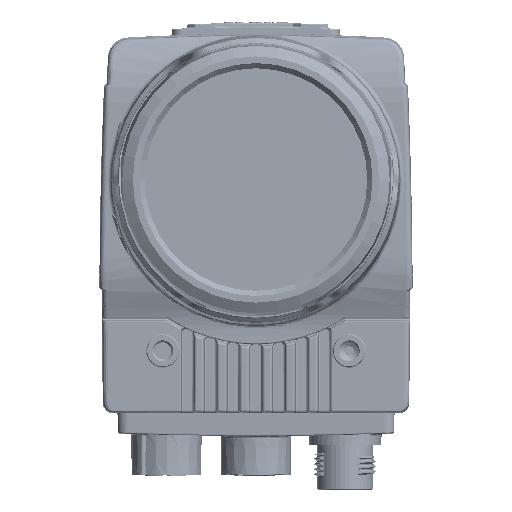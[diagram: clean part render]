
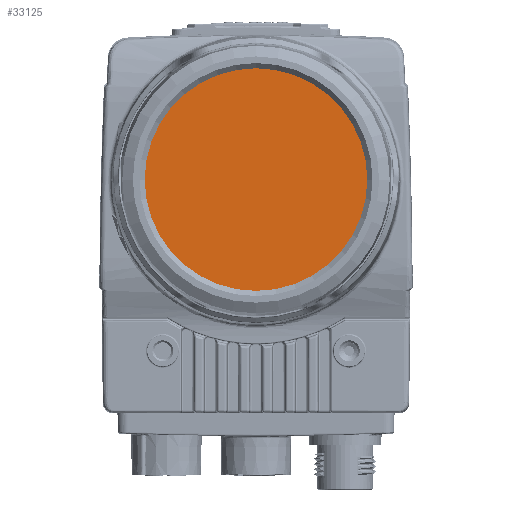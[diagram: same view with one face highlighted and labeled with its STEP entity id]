
A CAD part, top view. The second image highlights one B-rep face of the part: STEP entity #33125.
In plain terms, the highlighted planar face has unit normal (0, 0, 1).
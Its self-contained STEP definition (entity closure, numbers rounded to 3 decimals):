
#1721 = VERTEX_POINT ( 'NONE', #16702 ) ;
#14329 = CIRCLE ( 'NONE', #147706, 23.875 ) ;
#16702 = CARTESIAN_POINT ( 'NONE',  ( -14.368, -19.067, 49.45 ) ) ;
#24736 = VERTEX_POINT ( 'NONE', #190075 ) ;
#33125 = ADVANCED_FACE ( 'NONE', ( #276855 ), #117087, .T. ) ;
#39276 = CARTESIAN_POINT ( 'NONE',  ( 0., 0., 49.45 ) ) ;
#73977 = CARTESIAN_POINT ( 'NONE',  ( 0., 0., 49.45 ) ) ;
#79364 = CIRCLE ( 'NONE', #122435, 23.875 ) ;
#100604 = DIRECTION ( 'NONE',  ( -0.602, -0.799, 0. ) ) ;
#110373 = DIRECTION ( 'NONE',  ( 0., 0., 1. ) ) ;
#117087 = PLANE ( 'NONE',  #178812 ) ;
#119350 = DIRECTION ( 'NONE',  ( -0.602, -0.799, 0. ) ) ;
#122435 = AXIS2_PLACEMENT_3D ( 'NONE', #269120, #110373, #295818 ) ;
#125363 = ORIENTED_EDGE ( 'NONE', *, *, #200528, .T. ) ;
#147706 = AXIS2_PLACEMENT_3D ( 'NONE', #73977, #259368, #100604 ) ;
#158519 = EDGE_CURVE ( 'NONE', #24736, #1721, #79364, .T. ) ;
#178812 = AXIS2_PLACEMENT_3D ( 'NONE', #39276, #278110, #119350 ) ;
#190075 = CARTESIAN_POINT ( 'NONE',  ( 14.368, 19.067, 49.45 ) ) ;
#199599 = EDGE_LOOP ( 'NONE', ( #205933, #125363 ) ) ;
#200528 = EDGE_CURVE ( 'NONE', #1721, #24736, #14329, .T. ) ;
#205933 = ORIENTED_EDGE ( 'NONE', *, *, #158519, .T. ) ;
#259368 = DIRECTION ( 'NONE',  ( 0., 0., 1. ) ) ;
#269120 = CARTESIAN_POINT ( 'NONE',  ( 0., 0., 49.45 ) ) ;
#276855 = FACE_OUTER_BOUND ( 'NONE', #199599, .T. ) ;
#278110 = DIRECTION ( 'NONE',  ( 0., 0., 1. ) ) ;
#295818 = DIRECTION ( 'NONE',  ( -0.602, -0.799, 0. ) ) ;
